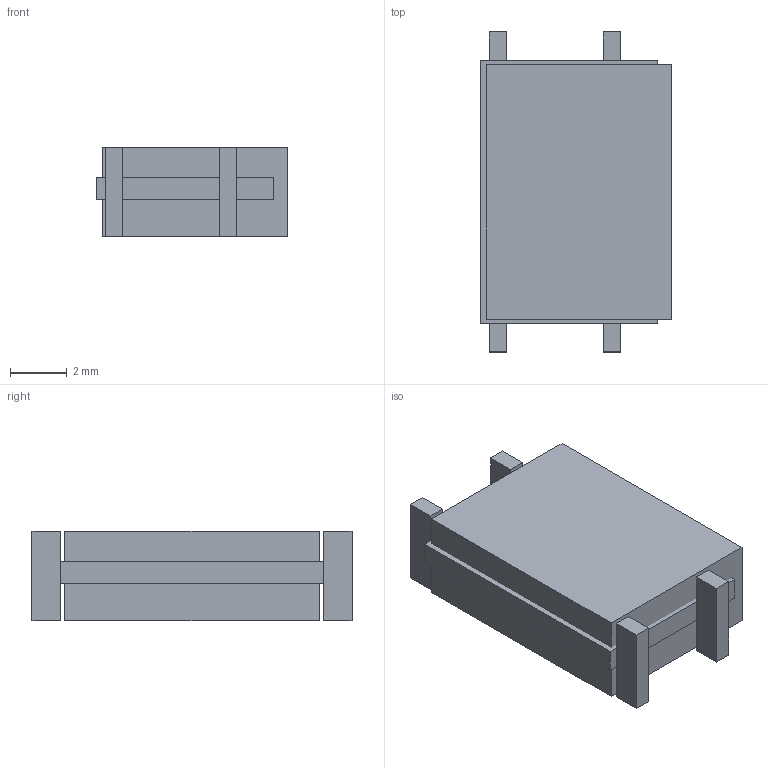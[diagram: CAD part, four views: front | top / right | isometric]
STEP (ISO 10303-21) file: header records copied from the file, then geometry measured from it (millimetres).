
FILE_DESCRIPTION(('Open CASCADE Model'),'2;1');
FILE_NAME('GCT_USB4520-03-0-A_usbc_midmount','2026-09-04T00:01:43',( 'Author'),('Open CASCADE'),'Open CASCADE STEP processor 7.9', 'build123d','Unknown');
FILE_SCHEMA(('AUTOMOTIVE_DESIGN { 1 0 10303 214 1 1 1 1 }'));
Length unit declared in the file: millimetre
Products named in the file (5): GCT_USB4520-03-0-A_usbc_midmount; body; shell_mating_face; solder_legs_4x; board_cutout_REQUIRED
Assembly tree (4 placements, depth 2):
  GCT_USB4520-03-0-A_usbc_midmount
    body
    shell_mating_face
    solder_legs_4x
    board_cutout_REQUIRED
Bounding box: 6.7 x 11.24 x 3.16 mm (x, y, z)
Volume: 206.3 mm3; surface area: 475.9 mm2
Topology: 7 solids, 7 shells, 56 faces, 120 edges, 80 vertices
Faces by surface type: plane 56
Entity records: 1558 total; most frequent: CARTESIAN_POINT 261, DIRECTION 242, ORIENTED_EDGE 240, EDGE_CURVE 120, LINE 120, VECTOR 120, VERTEX_POINT 80, AXIS2_PLACEMENT_3D 61
